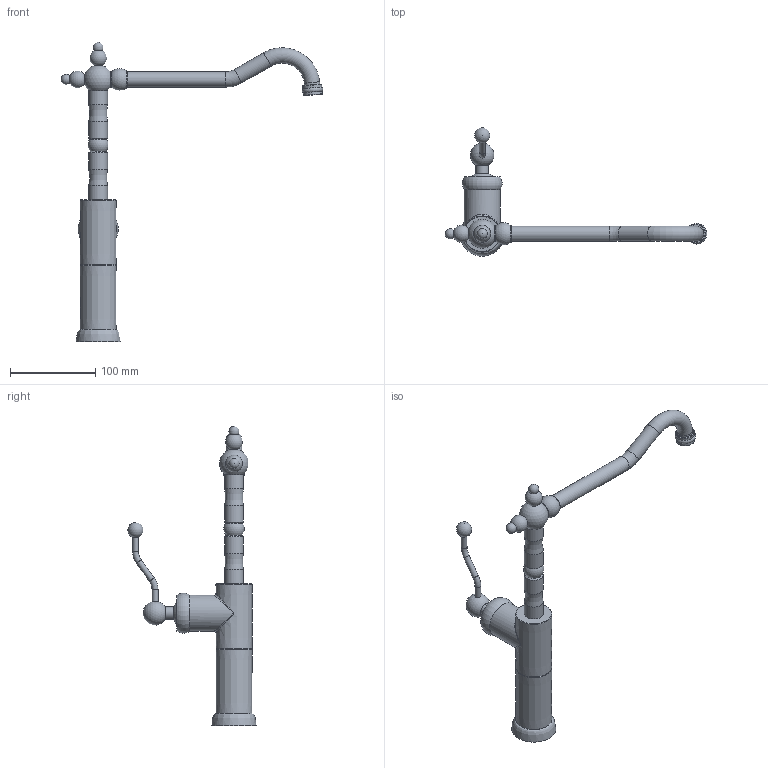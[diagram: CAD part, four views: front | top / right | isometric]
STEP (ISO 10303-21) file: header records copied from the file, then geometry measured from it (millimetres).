
FILE_DESCRIPTION(('STEP AP214'), '1');
FILE_NAME('88CR572LLKM', '', ('UNSPECIFIED'), ('UNSPECIFIED'), 'ASCON STEP Converter 1.6', 'ASCON Math Kernel', '');
FILE_SCHEMA(('AUTOMOTIVE_DESIGN { 1 0 10303 214 3 1 1}'));
Length unit declared in the file: millimetre
Bounding box: 307.13 x 150.46 x 351.19 mm (x, y, z)
Volume: 486207 mm3; surface area: 72265.5 mm2
Topology: 2 solids, 2 shells, 61 faces, 117 edges, 65 vertices
Faces by surface type: torus 18, cylinder 16, plane 11, sphere 9, cone 4, bspline 2, revolution 1
Full cylindrical faces by diameter (mm): 7 x3, 14.653 x1, 18 x3, 18.831 x1, 20.166 x1, 22 x2, 22.153 x4, 42.241 x1
Entity records: 2767 total; most frequent: CARTESIAN_POINT 1214, DIRECTION 233, ORIENTED_EDGE 126, AXIS2_PLACEMENT_3D 116, EDGE_LOOP 116, FACE_OUTER_BOUND 90, COLOUR_RGB 63, FILL_AREA_STYLE_COLOUR 63
